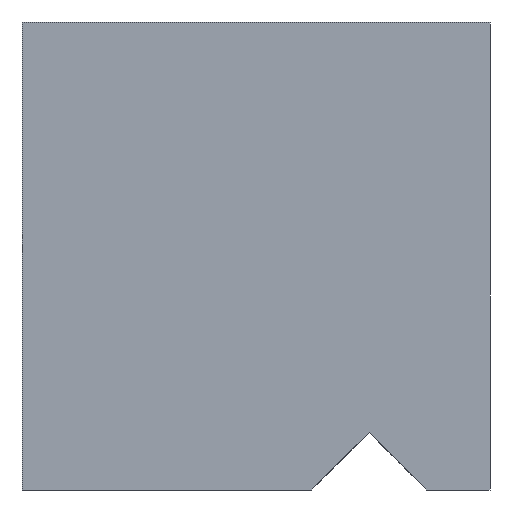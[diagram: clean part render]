
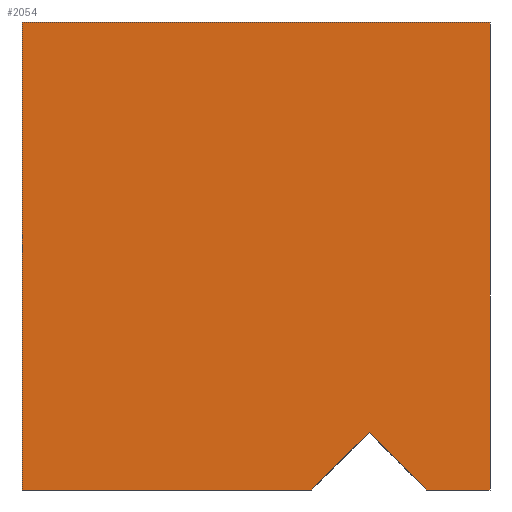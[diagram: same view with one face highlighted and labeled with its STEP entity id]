
A CAD part, front view. The second image highlights one B-rep face of the part: STEP entity #2054.
In plain terms, the highlighted planar face has unit normal (0, -1, 0).
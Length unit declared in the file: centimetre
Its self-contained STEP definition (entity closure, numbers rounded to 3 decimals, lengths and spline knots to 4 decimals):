
#6 = EDGE_CURVE ( 'NONE', #749, #29, #705, .T. ) ;
#29 = VERTEX_POINT ( 'NONE', #356 ) ;
#90 = CARTESIAN_POINT ( 'NONE',  ( 0., 0., 1000. ) ) ;
#101 = CARTESIAN_POINT ( 'NONE',  ( 1000., 0., 0. ) ) ;
#164 = CARTESIAN_POINT ( 'NONE',  ( 741.7395, 0., 123.1851 ) ) ;
#168 = ORIENTED_EDGE ( 'NONE', *, *, #1035, .F. ) ;
#255 = PLANE ( 'NONE',  #637 ) ;
#279 = ORIENTED_EDGE ( 'NONE', *, *, #970, .F. ) ;
#328 = DIRECTION ( 'NONE',  ( -0.707, 0., 0.707 ) ) ;
#333 = VECTOR ( 'NONE', #2294, 100. ) ;
#356 = CARTESIAN_POINT ( 'NONE',  ( 618.5544, 0., 0. ) ) ;
#364 = DIRECTION ( 'NONE',  ( 1., 0., 0. ) ) ;
#413 = VECTOR ( 'NONE', #2154, 100. ) ;
#443 = VECTOR ( 'NONE', #364, 100. ) ;
#632 = VERTEX_POINT ( 'NONE', #695 ) ;
#637 = AXIS2_PLACEMENT_3D ( 'NONE', #90, #1168, #1349 ) ;
#695 = CARTESIAN_POINT ( 'NONE',  ( 864.9246, 0., 0. ) ) ;
#705 = LINE ( 'NONE', #1616, #413 ) ;
#716 = VERTEX_POINT ( 'NONE', #1212 ) ;
#717 = CARTESIAN_POINT ( 'NONE',  ( 0., 0., 1000. ) ) ;
#749 = VERTEX_POINT ( 'NONE', #1597 ) ;
#857 = ORIENTED_EDGE ( 'NONE', *, *, #1588, .T. ) ;
#886 = LINE ( 'NONE', #1817, #333 ) ;
#935 = LINE ( 'NONE', #1966, #1287 ) ;
#936 = CARTESIAN_POINT ( 'NONE',  ( 0., 0., 0. ) ) ;
#970 = EDGE_CURVE ( 'NONE', #1793, #716, #935, .T. ) ;
#1035 = EDGE_CURVE ( 'NONE', #716, #1969, #1489, .T. ) ;
#1058 = VECTOR ( 'NONE', #328, 100. ) ;
#1124 = DIRECTION ( 'NONE',  ( 0., 0., -1. ) ) ;
#1138 = VECTOR ( 'NONE', #1124, 100. ) ;
#1168 = DIRECTION ( 'NONE',  ( 0., 1., 0. ) ) ;
#1175 = VERTEX_POINT ( 'NONE', #2282 ) ;
#1202 = VECTOR ( 'NONE', #2155, 100. ) ;
#1212 = CARTESIAN_POINT ( 'NONE',  ( 1000., 0., 1000. ) ) ;
#1287 = VECTOR ( 'NONE', #1291, 100. ) ;
#1291 = DIRECTION ( 'NONE',  ( 1., 0., 0. ) ) ;
#1349 = DIRECTION ( 'NONE',  ( 0., 0., 1. ) ) ;
#1419 = LINE ( 'NONE', #164, #1058 ) ;
#1437 = ORIENTED_EDGE ( 'NONE', *, *, #6, .F. ) ;
#1489 = LINE ( 'NONE', #2010, #1138 ) ;
#1548 = ORIENTED_EDGE ( 'NONE', *, *, #1836, .F. ) ;
#1588 = EDGE_CURVE ( 'NONE', #1793, #1175, #1946, .T. ) ;
#1597 = CARTESIAN_POINT ( 'NONE',  ( 741.7395, 0., 123.1851 ) ) ;
#1616 = CARTESIAN_POINT ( 'NONE',  ( 618.5544, 0., 0. ) ) ;
#1633 = EDGE_CURVE ( 'NONE', #632, #1969, #886, .T. ) ;
#1696 = FACE_OUTER_BOUND ( 'NONE', #2199, .T. ) ;
#1793 = VERTEX_POINT ( 'NONE', #1956 ) ;
#1817 = CARTESIAN_POINT ( 'NONE',  ( 0., 0., 0. ) ) ;
#1836 = EDGE_CURVE ( 'NONE', #632, #749, #1419, .T. ) ;
#1862 = EDGE_CURVE ( 'NONE', #1175, #29, #2128, .T. ) ;
#1946 = LINE ( 'NONE', #717, #1202 ) ;
#1956 = CARTESIAN_POINT ( 'NONE',  ( 0., 0., 1000. ) ) ;
#1966 = CARTESIAN_POINT ( 'NONE',  ( 0., 0., 1000. ) ) ;
#1969 = VERTEX_POINT ( 'NONE', #101 ) ;
#2010 = CARTESIAN_POINT ( 'NONE',  ( 1000., 0., 1000. ) ) ;
#2054 = ADVANCED_FACE ( 'NONE', ( #1696 ), #255, .F. ) ;
#2079 = ORIENTED_EDGE ( 'NONE', *, *, #1862, .T. ) ;
#2128 = LINE ( 'NONE', #936, #443 ) ;
#2146 = ORIENTED_EDGE ( 'NONE', *, *, #1633, .T. ) ;
#2154 = DIRECTION ( 'NONE',  ( -0.707, 0., -0.707 ) ) ;
#2155 = DIRECTION ( 'NONE',  ( 0., 0., -1. ) ) ;
#2199 = EDGE_LOOP ( 'NONE', ( #2079, #1437, #1548, #2146, #168, #279, #857 ) ) ;
#2282 = CARTESIAN_POINT ( 'NONE',  ( 0., 0., 0. ) ) ;
#2294 = DIRECTION ( 'NONE',  ( 1., 0., 0. ) ) ;
